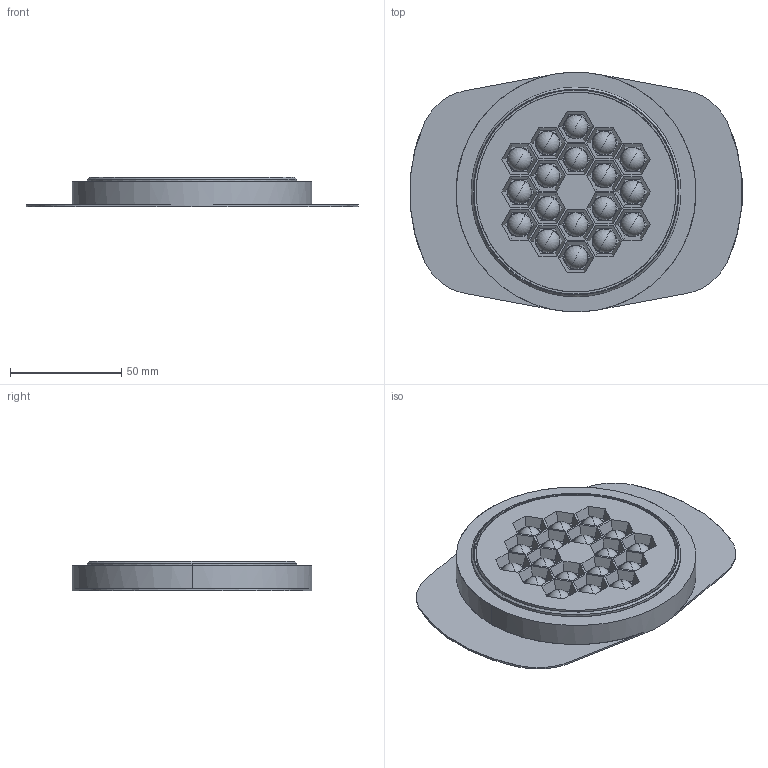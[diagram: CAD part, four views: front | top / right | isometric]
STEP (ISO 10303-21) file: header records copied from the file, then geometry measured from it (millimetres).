
FILE_DESCRIPTION(/* description */ (''),/* implementation_level */ '2;1');
FILE_NAME(/* name */ 'Helgoland 90 Trimless',/* time_stamp */ '2024-11-13T10:48:15+01:00',/* author */ (''),/* organization */ (''),/* preprocessor_version */ 'ST-DEVELOPER v16.5',/* originating_system */ 'Rhino 7.37',/* authorisation */ '');
FILE_SCHEMA (('AUTOMOTIVE_DESIGN'));
Length unit declared in the file: millimetre
Products named in the file (3): Document; Blocco 01; Blocco 01 01
Assembly tree (2 placements, depth 2):
  Document
    Blocco 01
    Blocco 01 01
Bounding box: 149.49 x 107.89 x 13.3 mm (x, y, z)
Surface area: 50905.8 mm2 (no closed solid volume)
Topology: 0 solids, 227 shells, 273 faces, 1159 edges, 1049 vertices
Faces by surface type: plane 164, bspline 82, cylinder 27
Entity records: 19226 total; most frequent: CARTESIAN_POINT 8774, ORIENTED_EDGE 1215, EDGE_CURVE 1123, VERTEX_POINT 1049, B_SPLINE_CURVE_WITH_KNOTS 794, COLOUR_RGB 500, FILL_AREA_STYLE_COLOUR 500, FILL_AREA_STYLE 500
